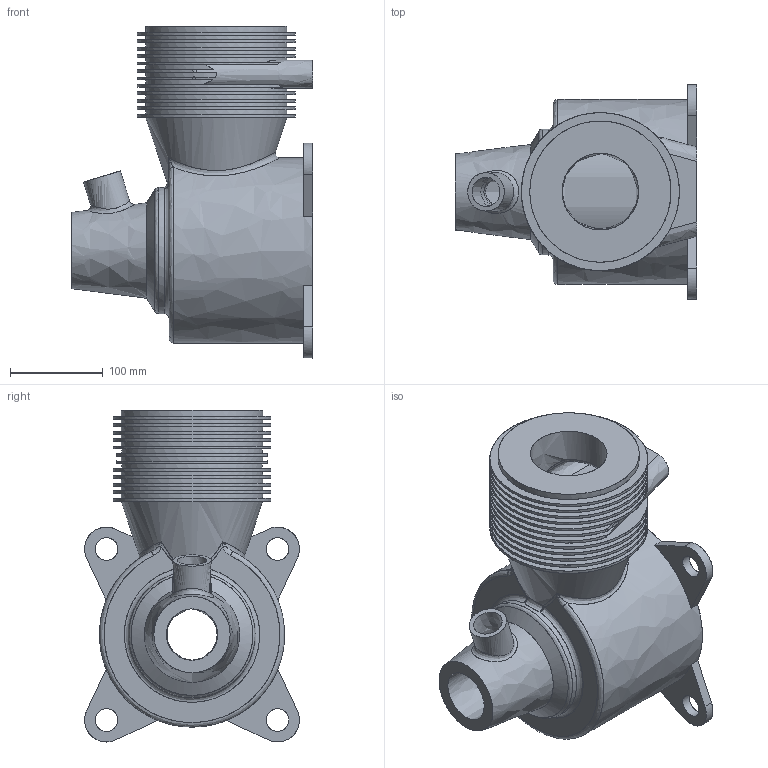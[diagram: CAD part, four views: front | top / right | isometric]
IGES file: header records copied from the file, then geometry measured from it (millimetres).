
Global section: file name: D:\Personal Documents\Design Database\NX\Part Modeling\Engine-Block.igs; native system: NX V8.0; preprocessor: SIEMENS PLM Software NX 8.0; date: 20141127.121755; units: millimetre
Bounding box: 260.01 x 231.06 x 357 mm (x, y, z)
Surface area: 548344.7 mm2 (no closed solid volume)
Topology: 0 solids, 0 shells, 126 faces, 1803 edges, 1754 vertices
Faces by surface type: bspline 126
